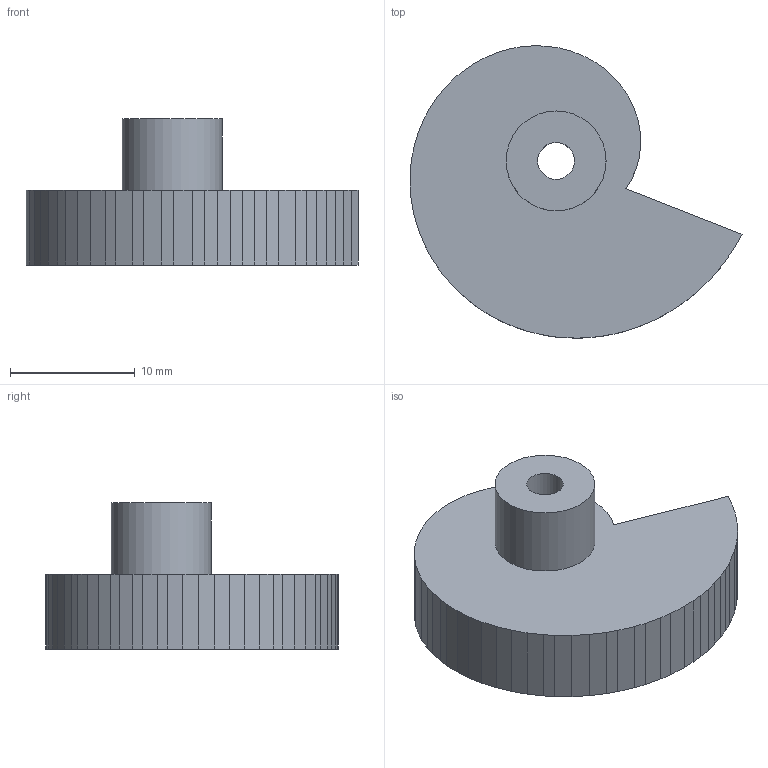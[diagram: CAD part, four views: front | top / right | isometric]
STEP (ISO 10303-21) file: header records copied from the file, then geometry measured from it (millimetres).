
FILE_DESCRIPTION(('Open CASCADE Model'),'2;1');
FILE_NAME('Open CASCADE Shape Model','2026-10-05T13:03:06',('Author'),( 'Open CASCADE'),'Open CASCADE STEP processor 7.9','Open CASCADE 7.9' ,'Unknown');
FILE_SCHEMA(('AUTOMOTIVE_DESIGN { 1 0 10303 214 1 1 1 1 }'));
Length unit declared in the file: millimetre
Products named in the file (1): Open CASCADE STEP translator 7.9 12
Bounding box: 26.59 x 23.42 x 11.7 mm (x, y, z)
Volume: 2640.6 mm3; surface area: 1528.5 mm2
Topology: 1 solids, 1 shells, 73 faces, 210 edges, 140 vertices
Faces by surface type: plane 71, cylinder 2
Full cylindrical faces by diameter (mm): 2.95 x1, 8 x1
Entity records: 5092 total; most frequent: CARTESIAN_POINT 844, DIRECTION 782, LINE 622, VECTOR 622, ORIENTED_EDGE 420, PCURVE 420, DEFINITIONAL_REPRESENTATION 420, EDGE_CURVE 210
